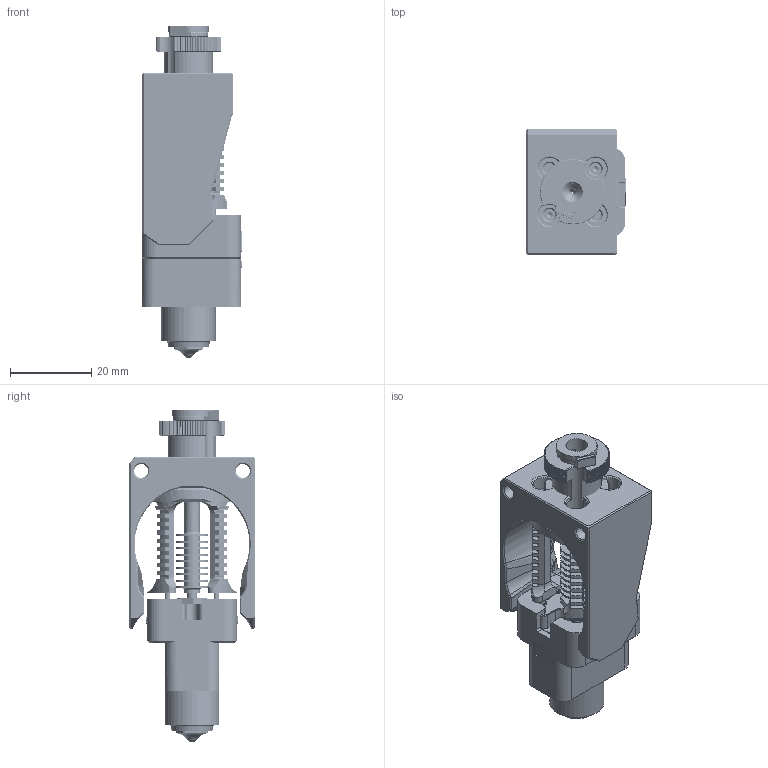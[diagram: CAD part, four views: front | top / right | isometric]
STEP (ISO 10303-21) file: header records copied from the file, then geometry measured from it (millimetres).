
FILE_DESCRIPTION(/* description */ (''),/* implementation_level */ '2;1');
FILE_NAME(/* name */ 'Dragon UHF Mount v3.step',/* time_stamp */ '2023-08-28T16:27:58+02:00',/* author */ (''),/* organization */ (''),/* preprocessor_version */ 'ST-DEVELOPER v20',/* originating_system */ 'Autodesk Translation Framework v12.9.0.99',/* authorisation */ '');
FILE_SCHEMA (('AUTOMOTIVE_DESIGN { 1 0 10303 214 3 1 1 }'));
Products named in the file (3): Dragon UHF Mount; Phaetus Rapido Hotend Mount:1; Dragon UHF Hotend
Assembly tree (2 placements, depth 2):
  Dragon UHF Mount
    Phaetus Rapido Hotend Mount:1
    Dragon UHF Hotend
Bounding box: 24.69 x 30.8 x 81.6 mm (x, y, z)
Volume: 21937.3 mm3; surface area: 21638.3 mm2
Topology: 12 solids, 21 shells, 2855 faces, 8082 edges, 5262 vertices
Faces by surface type: plane 1292, cylinder 1050, bspline 310, cone 182, torus 14, sphere 7
Full cylindrical faces by diameter (mm): 0.4 x1, 0.711 x1, 0.919 x1, 1.05 x20, 1.1 x68, 1.25 x24, 1.4 x64, 1.5 x4, 1.6 x2, 1.9 x1, 2 x22, 2.05 x10, 2.3 x32, 2.35 x4, 2.4 x4, 2.5 x18, 2.6 x2, 2.9 x4, 3 x18, 3.1 x7, 3.4 x2, 3.8 x10, 3.9 x2, 4.15 x1, 4.2 x1, 4.8 x2, 4.85 x1, 5 x28, 5.3 x1, 5.5 x4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
Entity records: 233835 total; most frequent: CARTESIAN_POINT 161358, ORIENTED_EDGE 16142, DIRECTION 12818, EDGE_CURVE 8071, VERTEX_POINT 5262, AXIS2_PLACEMENT_3D 4565, LINE 3688, VECTOR 3688
